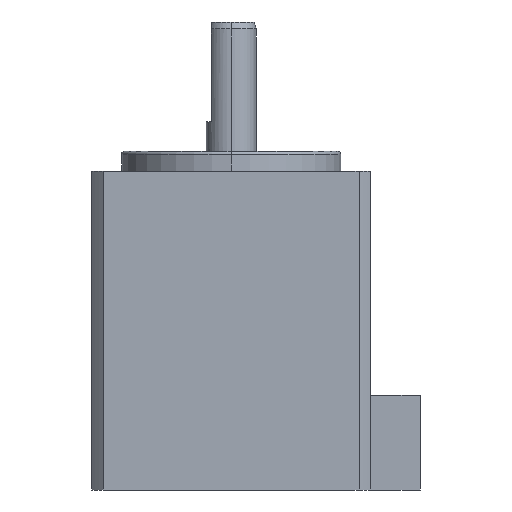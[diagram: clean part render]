
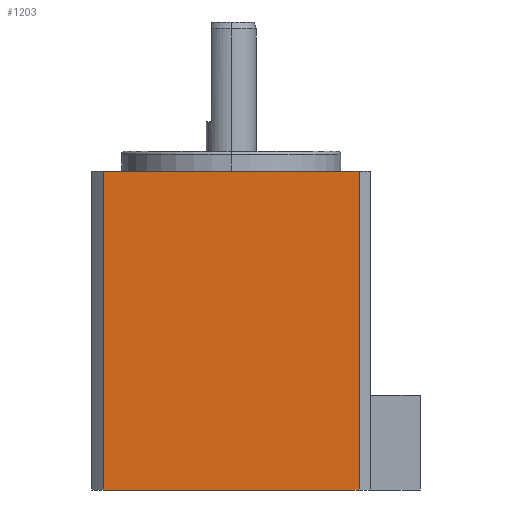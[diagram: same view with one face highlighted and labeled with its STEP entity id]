
A CAD part, left-side view. The second image highlights one B-rep face of the part: STEP entity #1203.
In plain terms, the highlighted planar face has unit normal (-1, 0, 0).
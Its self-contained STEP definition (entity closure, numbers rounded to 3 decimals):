
#105 = CARTESIAN_POINT ( 'NONE',  ( -14., 0., -32. ) ) ;
#133 = VERTEX_POINT ( 'NONE', #963 ) ;
#147 = ORIENTED_EDGE ( 'NONE', *, *, #899, .F. ) ;
#151 = CARTESIAN_POINT ( 'NONE',  ( -14., 0., 0. ) ) ;
#155 = ORIENTED_EDGE ( 'NONE', *, *, #720, .T. ) ;
#182 = EDGE_CURVE ( 'NONE', #664, #530, #666, .T. ) ;
#185 = EDGE_LOOP ( 'NONE', ( #190, #744, #147, #155 ) ) ;
#190 = ORIENTED_EDGE ( 'NONE', *, *, #182, .T. ) ;
#221 = DIRECTION ( 'NONE',  ( 1., 0., 0. ) ) ;
#260 = CARTESIAN_POINT ( 'NONE',  ( -14., 12.845, 0. ) ) ;
#268 = LINE ( 'NONE', #388, #406 ) ;
#303 = DIRECTION ( 'NONE',  ( 0., 1., 0. ) ) ;
#352 = DIRECTION ( 'NONE',  ( 0., 0., -1. ) ) ;
#388 = CARTESIAN_POINT ( 'NONE',  ( -14., 12.845, -32. ) ) ;
#406 = VECTOR ( 'NONE', #510, 1000. ) ;
#453 = EDGE_CURVE ( 'NONE', #525, #530, #268, .T. ) ;
#500 = VECTOR ( 'NONE', #303, 1000. ) ;
#510 = DIRECTION ( 'NONE',  ( 0., 0., 1. ) ) ;
#525 = VERTEX_POINT ( 'NONE', #969 ) ;
#530 = VERTEX_POINT ( 'NONE', #260 ) ;
#570 = FACE_OUTER_BOUND ( 'NONE', #185, .T. ) ;
#592 = VECTOR ( 'NONE', #949, 1000. ) ;
#618 = DIRECTION ( 'NONE',  ( 0., 1., 0. ) ) ;
#639 = LINE ( 'NONE', #974, #500 ) ;
#664 = VERTEX_POINT ( 'NONE', #680 ) ;
#666 = LINE ( 'NONE', #151, #917 ) ;
#680 = CARTESIAN_POINT ( 'NONE',  ( -14., -12.845, 0. ) ) ;
#720 = EDGE_CURVE ( 'NONE', #133, #664, #1009, .T. ) ;
#725 = CARTESIAN_POINT ( 'NONE',  ( -14., -12.845, -32. ) ) ;
#744 = ORIENTED_EDGE ( 'NONE', *, *, #453, .F. ) ;
#753 = AXIS2_PLACEMENT_3D ( 'NONE', #105, #221, #352 ) ;
#899 = EDGE_CURVE ( 'NONE', #133, #525, #639, .T. ) ;
#917 = VECTOR ( 'NONE', #618, 1000. ) ;
#949 = DIRECTION ( 'NONE',  ( 0., 0., 1. ) ) ;
#963 = CARTESIAN_POINT ( 'NONE',  ( -14., -12.845, -32. ) ) ;
#969 = CARTESIAN_POINT ( 'NONE',  ( -14., 12.845, -32. ) ) ;
#974 = CARTESIAN_POINT ( 'NONE',  ( -14., 0., -32. ) ) ;
#1009 = LINE ( 'NONE', #725, #592 ) ;
#1188 = PLANE ( 'NONE',  #753 ) ;
#1203 = ADVANCED_FACE ( 'NONE', ( #570 ), #1188, .F. ) ;
